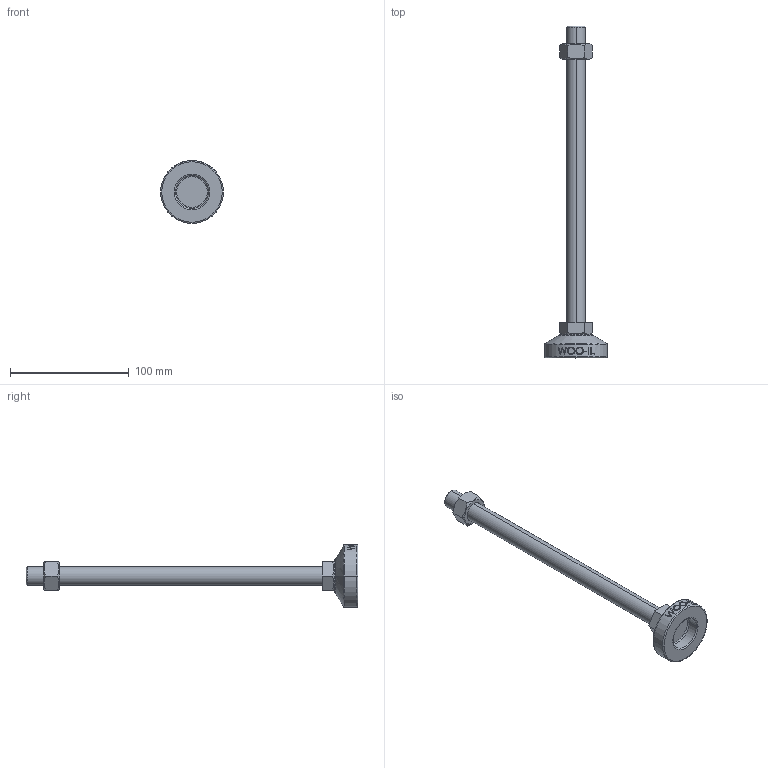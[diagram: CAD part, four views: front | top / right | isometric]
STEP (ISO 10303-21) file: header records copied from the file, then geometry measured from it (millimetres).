
FILE_DESCRIPTION (( 'STEP AP214' ), '1' );
FILE_NAME ('MFZ53-M16-250.step', '2021-01-15T07:04:51', ( '' ), ( '' ), 'SwSTEP 2.0', 'SolidWorks 2019', '' );
FILE_SCHEMA (( 'AUTOMOTIVE_DESIGN' ));
Length unit declared in the file: millimetre
Products named in the file (2): MFZ53-M16-250
Bounding box: 53 x 280 x 53 mm (x, y, z)
Volume: 89041 mm3; surface area: 24054.3 mm2
Topology: 3 solids, 3 shells, 106 faces, 243 edges, 154 vertices
Faces by surface type: plane 48, cylinder 18, bspline 16, cone 14, torus 10
Entity records: 4508 total; most frequent: CARTESIAN_POINT 2165, ORIENTED_EDGE 486, DIRECTION 439, EDGE_CURVE 243, AXIS2_PLACEMENT_3D 170, VERTEX_POINT 154, EDGE_LOOP 119, FACE_OUTER_BOUND 106
